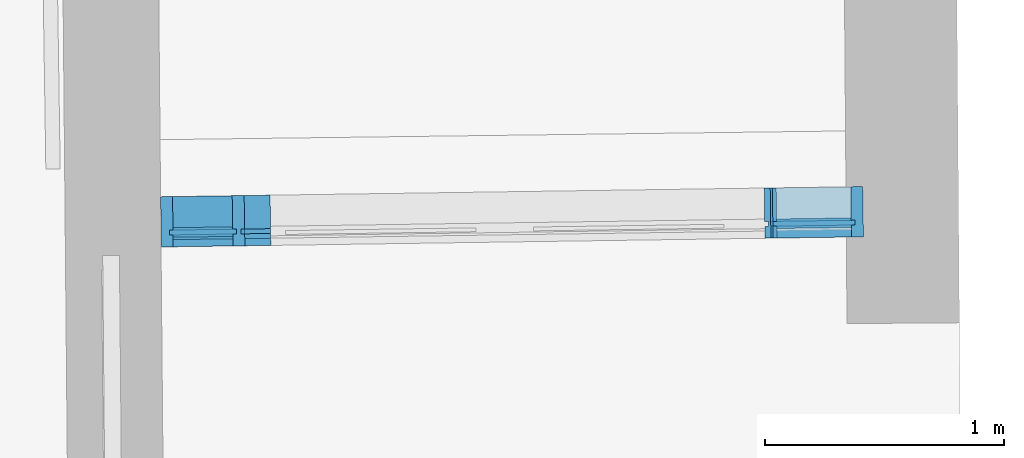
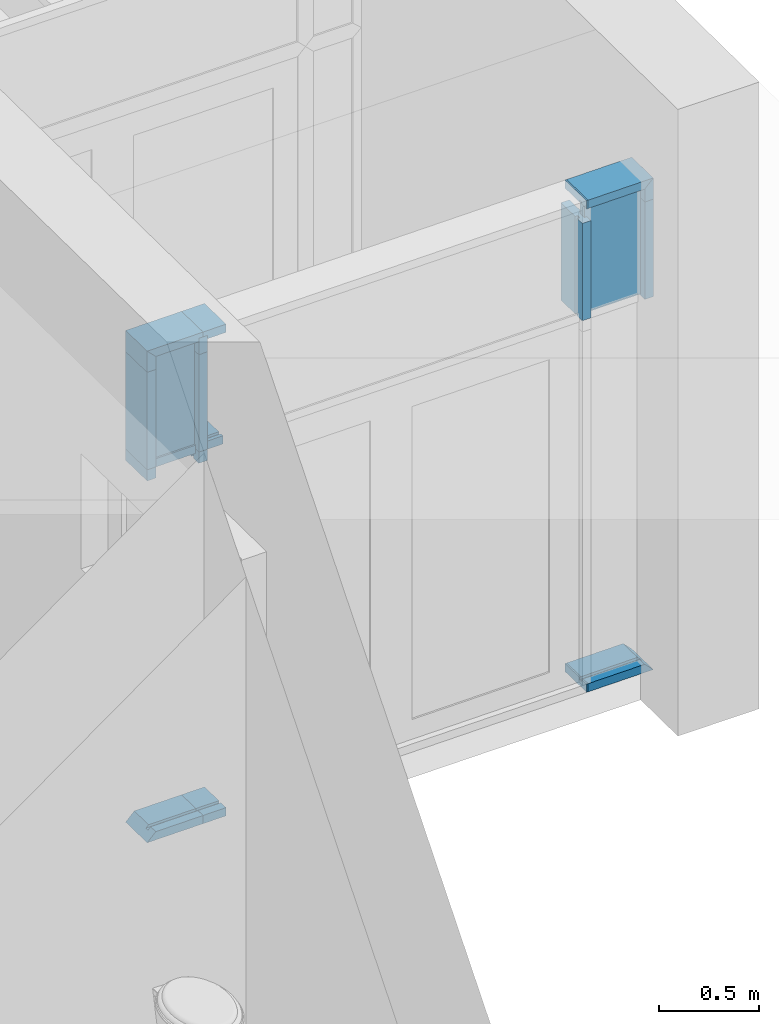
# One storey, part 156 of 196: 21 building element parts, 1 element without a shape of its own.
"""IFC2X3 building model written with IfcOpenShell, lengths in metres."""

from ifc_helpers import new_model, entity, si_unit, converted_unit, derived_unit, money_unit, direction, frame, origin_with_axes, place, context, subcontext, project, spatial, faceted_brep, material, type_object, element, aggregate, save


model = new_model("IFC2X3")

# Units and contexts
model_context = context("Model", 3, precision=1e-05, world=origin_with_axes(), true_north=direction((0.0, 1.0)))
body_context = subcontext(model_context, "Body", "Model", "MODEL_VIEW")
ifc_project = project(units=[si_unit("LENGTHUNIT", "METRE"), si_unit("AREAUNIT", "SQUARE_METRE"), si_unit("VOLUMEUNIT", "CUBIC_METRE"), converted_unit("PLANEANGLEUNIT", "DEGREE", entity("IfcPlaneAngleMeasure", 0.0174532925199), si_unit("PLANEANGLEUNIT", "RADIAN"), dimensions=[0, 0, 0, 0, 0, 0, 0]), money_unit("EUR"), converted_unit("TIMEUNIT", "Year", entity("IfcTimeMeasure", 31556926.0), si_unit("TIMEUNIT", "SECOND"), dimensions=[0, 0, 1, 0, 0, 0, 0]), si_unit("MASSUNIT", "GRAM", prefix="KILO"), si_unit("THERMODYNAMICTEMPERATUREUNIT", "DEGREE_CELSIUS"), si_unit("LUMINOUSINTENSITYUNIT", "LUMEN"), si_unit("ENERGYUNIT", "JOULE", prefix="MEGA"), derived_unit("THERMALCONDUCTANCEUNIT", [(si_unit("POWERUNIT", "WATT"), 1), (si_unit("LENGTHUNIT", "METRE"), -1), (si_unit("THERMODYNAMICTEMPERATUREUNIT", "KELVIN"), -1)]), derived_unit("SPECIFICHEATCAPACITYUNIT", [(si_unit("ENERGYUNIT", "JOULE"), 1), (si_unit("MASSUNIT", "GRAM", prefix="KILO"), -1), (si_unit("THERMODYNAMICTEMPERATUREUNIT", "KELVIN"), -1)]), derived_unit("MASSDENSITYUNIT", [(si_unit("MASSUNIT", "GRAM", prefix="KILO"), 1), (si_unit("VOLUMEUNIT", "CUBIC_METRE"), -1)])], contexts=[model_context])

# Site, building, storey
site_placement = place(None, origin_with_axes())
site = spatial("IfcSite", under=ifc_project, at=site_placement, Name="Gelände", CompositionType="ELEMENT")
building_placement = place(site_placement, origin_with_axes())
building = spatial("IfcBuilding", under=site, at=building_placement, Name="Gebäude", CompositionType="ELEMENT")
storey_placement = place(building_placement, frame((0.0, 0.0, -3.0), z_axis=(0.0, 0.0, 1.0), x_axis=(1.0, 0.0, 0.0)))
storey = spatial("IfcBuildingStorey", under=building, at=storey_placement, Name="KELLERGESCHOSS", CompositionType="ELEMENT", Elevation=-3.0)

# Proxy, building element parts
building_element_proxy_type = type_object("IfcBuildingElementProxyType", Name="Fassadentyp", PredefinedType="NOTDEFINED")
proxy_placement = place(storey_placement, frame((-18.3953551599, 39.5909637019, 0.410855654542), z_axis=(0.0, 0.0, 1.0), x_axis=(1.0, 0.0, 0.0)))
proxy = element("IfcBuildingElementProxy", 1, at=proxy_placement, inside=storey, type_object=building_element_proxy_type, Name="Fassade-002")
ifc_material_1 = material(Name="45_Glas, Normalglas")
building_element_part_1_placement = place(proxy_placement, origin_with_axes())
building_element_part_1 = element("IfcBuildingElementPart", 2, at=building_element_part_1_placement, material=ifc_material_1, Name="45_Glas, Normalglas", context=body_context, shape_type="Brep", body=[
    faceted_brep([(2.73800675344, 0.0596437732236, 2.95414427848), (2.39630923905, 0.0546965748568, 2.95414427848), (2.39688831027, 0.0147007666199, 2.95414427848), (2.73858582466, 0.0196479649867, 2.95414427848), (2.73800677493, 0.0596437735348, 2.85999997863), (2.73800678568, 0.0596437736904, 2.2778057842), (2.39630926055, 0.054696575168, 2.2778057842), (2.39630923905, 0.0546965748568, 2.85999998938), (2.39688831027, 0.0147007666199, 2.85999998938), (2.39688833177, 0.0147007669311, 2.2778057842), (2.7385858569, 0.0196479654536, 2.2778057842), (2.73858584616, 0.0196479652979, 2.85999997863)], [[[0, 1, 2, 3]], [[0, 4, 5, 6, 7, 1]], [[1, 7, 8, 2]], [[3, 2, 8, 9, 10, 11]], [[4, 0, 3, 11]], [[5, 4, 11, 10]], [[6, 5, 10, 9]], [[7, 6, 9, 8]]]),
])
building_element_part_2_placement = place(proxy_placement, origin_with_axes())
building_element_part_2 = element("IfcBuildingElementPart", 3, at=building_element_part_2_placement, material=ifc_material_1, Name="45_Glas, Normalglas", context=body_context, shape_type="Brep", body=[
    faceted_brep([(0.15192964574, 0.0222017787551, 2.95414435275), (-0.127511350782, 0.0181559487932, 2.95414435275), (-0.126932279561, -0.0218398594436, 2.95414435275), (0.152508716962, -0.0177940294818, 2.95414435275), (0.15192964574, 0.0222017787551, 2.85999998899), (0.151929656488, 0.0222017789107, 2.27780578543), (-0.127511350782, 0.0181559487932, 2.27780578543), (-0.127511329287, 0.0181559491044, 2.85999998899), (-0.126932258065, -0.0218398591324, 2.85999998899), (-0.126932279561, -0.0218398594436, 2.27780578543), (0.152508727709, -0.0177940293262, 2.27780578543), (0.152508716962, -0.0177940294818, 2.85999998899)], [[[0, 1, 2, 3]], [[0, 4, 5, 6, 7, 1]], [[1, 7, 8, 2]], [[3, 2, 8, 9, 10, 11]], [[4, 0, 3, 11]], [[5, 4, 11, 10]], [[6, 5, 10, 9]], [[7, 6, 9, 8]]]),
])
ifc_material_2 = material(Name="53_Metall, Aluminium")
building_element_part_3_placement = place(proxy_placement, origin_with_axes())
building_element_part_3 = element("IfcBuildingElementPart", 4, at=building_element_part_3_placement, material=ifc_material_2, Name="53_Metall, Aluminium", context=body_context, shape_type="Brep", body=[
    faceted_brep([(-0.127366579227, 0.0081569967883, 2.19999998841), (-0.127077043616, -0.0118409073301, 2.19999998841), (-0.112078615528, -0.0116237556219, 2.19999998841), (-0.1113547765, -0.061618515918, 2.19999998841), (-0.161349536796, -0.0623423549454, 2.19999998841), (-0.164389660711, 0.147635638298, 2.19999998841), (-0.114394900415, 0.148359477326, 2.19999998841), (-0.112368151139, 0.00837414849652, 2.19999998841), (-0.127366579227, 0.0081569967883, 2.26780578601), (-0.127077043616, -0.0118409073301, 2.26780578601), (-0.112078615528, -0.0116237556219, 2.26780578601), (-0.1113547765, -0.061618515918, 2.26780578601), (-0.161349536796, -0.0623423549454, 2.26780578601), (-0.164389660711, 0.147635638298, 2.26780578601), (-0.114394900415, 0.148359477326, 2.26780578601), (-0.112368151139, 0.00837414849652, 2.26780578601)], [[[0, 1, 2, 3, 4, 5, 6, 7]], [[1, 0, 8, 9]], [[10, 2, 1, 9]], [[2, 10, 11, 3]], [[12, 4, 3, 11]], [[13, 5, 4, 12]], [[14, 6, 5, 13]], [[15, 7, 6, 14]], [[0, 7, 15, 8]], [[8, 15, 14, 13, 12, 11, 10, 9]]]),
])
building_element_part_4_placement = place(proxy_placement, origin_with_axes())
building_element_part_4 = element("IfcBuildingElementPart", 5, at=building_element_part_4_placement, material=ifc_material_2, Name="53_Metall, Aluminium", context=body_context, shape_type="Brep", body=[
    faceted_brep([(-0.127366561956, 0.00815699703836, 2.26780578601), (-0.127077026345, -0.0118409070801, 2.26780578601), (-0.112078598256, -0.0116237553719, 2.26780578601), (-0.111354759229, -0.0616185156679, 2.26780578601), (-0.161349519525, -0.0623423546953, 2.26780578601), (-0.16438964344, 0.147635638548, 2.26780578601), (-0.114394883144, 0.148359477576, 2.26780578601), (-0.112368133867, 0.00837414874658, 2.26780578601), (-0.127366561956, 0.00815699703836, 2.85999999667), (-0.127077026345, -0.0118409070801, 2.85999999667), (-0.112078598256, -0.0116237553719, 2.85999999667), (-0.111354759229, -0.0616185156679, 2.85999999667), (-0.161349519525, -0.0623423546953, 2.85999999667), (-0.16438964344, 0.147635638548, 2.85999999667), (-0.114394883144, 0.148359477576, 2.85999999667), (-0.112368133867, 0.00837414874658, 2.85999999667)], [[[0, 1, 2, 3, 4, 5, 6, 7]], [[1, 0, 8, 9]], [[10, 2, 1, 9]], [[2, 10, 11, 3]], [[12, 4, 3, 11]], [[13, 5, 4, 12]], [[14, 6, 5, 13]], [[15, 7, 6, 14]], [[0, 7, 15, 8]], [[8, 15, 14, 13, 12, 11, 10, 9]]]),
])
building_element_part_5_placement = place(proxy_placement, origin_with_axes())
building_element_part_5 = element("IfcBuildingElementPart", 6, at=building_element_part_5_placement, material=ifc_material_2, Name="53_Metall, Aluminium", context=body_context, shape_type="Brep", body=[
    faceted_brep([(2.3964540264, 0.0446976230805, 2.85999998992), (2.41145245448, 0.0449147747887, 2.85999998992), (2.40942570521, 0.184900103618, 2.85999998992), (2.35943094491, 0.18417626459, 2.85999998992), (2.36145769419, 0.0441909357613, 2.85999998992), (2.37645612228, 0.0444080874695, 2.85999998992), (2.37674565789, 0.0244101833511, 2.85999998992), (2.3617472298, 0.0241930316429, 2.85999998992), (2.36247106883, -0.0258017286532, 2.85999998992), (2.41246582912, -0.0250778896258, 2.85999998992), (2.4117419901, 0.0249168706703, 2.85999998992), (2.39674356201, 0.0246997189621, 2.85999998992), (2.3964540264, 0.0446976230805, 2.26780578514), (2.41145245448, 0.0449147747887, 2.26780578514), (2.40942570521, 0.184900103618, 2.26780578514), (2.35943094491, 0.18417626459, 2.26780578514), (2.36145769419, 0.0441909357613, 2.26780578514), (2.37645612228, 0.0444080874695, 2.26780578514), (2.37674565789, 0.0244101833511, 2.26780578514), (2.3617472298, 0.0241930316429, 2.26780578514), (2.36247106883, -0.0258017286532, 2.26780578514), (2.41246582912, -0.0250778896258, 2.26780578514), (2.4117419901, 0.0249168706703, 2.26780578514), (2.39674356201, 0.0246997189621, 2.26780578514)], [[[0, 1, 2, 3, 4, 5, 6, 7, 8, 9, 10, 11]], [[1, 0, 12, 13]], [[1, 13, 14, 2]], [[3, 2, 14, 15]], [[4, 3, 15, 16]], [[4, 16, 17, 5]], [[5, 17, 18, 6]], [[7, 6, 18, 19]], [[19, 20, 8, 7]], [[9, 8, 20, 21]], [[22, 10, 9, 21]], [[11, 10, 22, 23]], [[0, 11, 23, 12]], [[23, 22, 21, 20, 19, 18, 17, 16, 15, 14, 13, 12]]]),
])
building_element_part_6_placement = place(proxy_placement, origin_with_axes())
building_element_part_6 = element("IfcBuildingElementPart", 7, at=building_element_part_6_placement, material=ifc_material_2, Name="53_Metall, Aluminium", context=body_context, shape_type="Brep", body=[
    faceted_brep([(2.73815154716, 0.0496448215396, 0.0349999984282), (2.73844108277, 0.0296469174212, 0.0349999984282), (2.72344265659, 0.0294297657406, 0.0499999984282), (2.72416649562, -0.0205649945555, 0.0499999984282), (2.77416124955, -0.0198411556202, -1.57177737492e-09), (2.77112112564, 0.190136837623, -1.57177737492e-09), (2.72112637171, 0.189412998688, 0.0499999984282), (2.72315312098, 0.049427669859, 0.0499999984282), (2.3953126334, 0.0446810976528, 0.0349999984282), (2.39560216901, 0.0246831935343, 0.0349999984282), (2.39560216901, 0.0246831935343, 0.0499999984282), (2.39632600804, -0.0253115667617, 0.0499999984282), (2.39632600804, -0.0253115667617, -1.57177737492e-09), (2.39328588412, 0.184666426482, -1.57177737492e-09), (2.39328588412, 0.184666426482, 0.0499999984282), (2.3953126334, 0.0446810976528, 0.0499999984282)], [[[0, 1, 2, 3, 4, 5, 6, 7]], [[1, 0, 8, 9]], [[10, 2, 1, 9]], [[2, 10, 11, 3]], [[12, 4, 3, 11]], [[13, 5, 4, 12]], [[14, 6, 5, 13]], [[15, 7, 6, 14]], [[0, 7, 15, 8]], [[8, 15, 14, 13, 12, 11, 10, 9]]]),
])
building_element_part_7_placement = place(proxy_placement, origin_with_axes())
building_element_part_7 = element("IfcBuildingElementPart", 8, at=building_element_part_7_placement, material=ifc_material_2, Name="53_Metall, Aluminium", context=body_context, shape_type="Brep", body=[
    faceted_brep([(2.39531264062, 0.0446810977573, 0.0349999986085), (2.39560217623, 0.0246831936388, 0.0349999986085), (2.39560217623, 0.0246831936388, 0.0499999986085), (2.39632601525, -0.0253115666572, 0.0499999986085), (2.39632601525, -0.0253115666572, -1.39153666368e-09), (2.39328589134, 0.184666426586, -1.39153666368e-09), (2.39328589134, 0.184666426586, 0.0499999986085), (2.39531264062, 0.0446810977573, 0.0499999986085), (2.38645507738, 0.0445528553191, 0.0349999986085), (2.38674461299, 0.0245549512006, 0.0349999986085), (2.38674461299, 0.0245549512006, 0.0499999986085), (2.38746845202, -0.0254398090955, 0.0499999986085), (2.38746845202, -0.0254398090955, -1.39153666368e-09), (2.3844283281, 0.184538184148, -1.39153666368e-09), (2.3844283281, 0.184538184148, 0.0499999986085), (2.38645507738, 0.0445528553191, 0.0499999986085)], [[[0, 1, 2, 3, 4, 5, 6, 7]], [[1, 0, 8, 9]], [[10, 2, 1, 9]], [[2, 10, 11, 3]], [[12, 4, 3, 11]], [[13, 5, 4, 12]], [[14, 6, 5, 13]], [[15, 7, 6, 14]], [[0, 7, 15, 8]], [[8, 15, 14, 13, 12, 11, 10, 9]]]),
])
building_element_part_8_placement = place(proxy_placement, origin_with_axes())
building_element_part_8 = element("IfcBuildingElementPart", 9, at=building_element_part_8_placement, material=ifc_material_2, Name="53_Metall, Aluminium", context=body_context, shape_type="Brep", body=[
    faceted_brep([(0.295532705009, 0.0142798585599, 2.25780579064), (0.295532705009, 0.0142798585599, 2.24280579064), (0.293505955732, 0.154265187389, 2.24280579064), (0.293505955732, 0.154265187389, 2.29280579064), (0.295532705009, 0.0142798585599, 2.29280579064), (0.295532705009, 0.0142798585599, 2.27780579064), (0.29582224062, -0.00571804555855, 2.27780579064), (0.29582224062, -0.00571804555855, 2.29280579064), (0.296111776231, -0.025715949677, 2.29280579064), (0.296111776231, -0.025715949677, 2.24280579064), (0.29582224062, -0.00571804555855, 2.24280579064), (0.29582224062, -0.00571804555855, 2.25780579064), (0.187070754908, 0.0127095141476, 2.25780579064), (0.187070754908, 0.0127095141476, 2.24280579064), (0.185044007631, 0.152694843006, 2.24280579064), (0.185044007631, 0.152694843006, 2.29280579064), (0.187070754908, 0.0127095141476, 2.29280579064), (0.187070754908, 0.0127095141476, 2.27780579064), (0.187360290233, -0.00728838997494, 2.27780579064), (0.187360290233, -0.00728838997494, 2.29280579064), (0.187649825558, -0.0272862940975, 2.29280579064), (0.187649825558, -0.0272862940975, 2.24280579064), (0.187360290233, -0.00728838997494, 2.24280579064), (0.187360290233, -0.00728838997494, 2.25780579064)], [[[0, 1, 2, 3, 4, 5, 6, 7, 8, 9, 10, 11]], [[1, 0, 12, 13]], [[1, 13, 14, 2]], [[2, 14, 15, 3]], [[4, 3, 15, 16]], [[4, 16, 17, 5]], [[5, 17, 18, 6]], [[7, 6, 18, 19]], [[19, 20, 8, 7]], [[8, 20, 21, 9]], [[22, 10, 9, 21]], [[11, 10, 22, 23]], [[0, 11, 23, 12]], [[23, 22, 21, 20, 19, 18, 17, 16, 15, 14, 13, 12]]]),
])
building_element_part_9_placement = place(proxy_placement, origin_with_axes())
building_element_part_9 = element("IfcBuildingElementPart", 10, at=building_element_part_9_placement, material=ifc_material_2, Name="53_Metall, Aluminium", context=body_context, shape_type="Brep", body=[
    faceted_brep([(-0.127366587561, 0.00815699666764, 2.95414435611), (-0.12707705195, -0.0118409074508, 2.95414435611), (-0.112078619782, -0.0116237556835, 2.93914435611), (-0.111354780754, -0.0616185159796, 2.93914435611), (-0.161349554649, -0.0623423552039, 2.98914435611), (-0.164389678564, 0.14763563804, 2.98914435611), (-0.114394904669, 0.148359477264, 2.93914435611), (-0.112368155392, 0.00837414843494, 2.93914435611), (0.162073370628, 0.0123475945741, 2.95414435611), (0.162362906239, -0.00765030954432, 2.95414435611), (0.162362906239, -0.00765030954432, 2.93914435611), (0.163086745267, -0.0576450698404, 2.93914435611), (0.163086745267, -0.0576450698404, 2.98914435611), (0.160046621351, 0.152332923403, 2.98914435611), (0.160046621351, 0.152332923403, 2.93914435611), (0.162073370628, 0.0123475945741, 2.93914435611)], [[[0, 1, 2, 3, 4, 5, 6, 7]], [[1, 0, 8, 9]], [[10, 2, 1, 9]], [[2, 10, 11, 3]], [[12, 4, 3, 11]], [[13, 5, 4, 12]], [[14, 6, 5, 13]], [[15, 7, 6, 14]], [[0, 7, 15, 8]], [[8, 15, 14, 13, 12, 11, 10, 9]]]),
])
building_element_part_10_placement = place(proxy_placement, origin_with_axes())
building_element_part_10 = element("IfcBuildingElementPart", 11, at=building_element_part_10_placement, material=ifc_material_2, Name="53_Metall, Aluminium", context=body_context, shape_type="Brep", body=[
    faceted_brep([(-0.12736659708, 0.00815699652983, 2.85999998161), (-0.127077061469, -0.0118409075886, 2.85999998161), (-0.11207863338, -0.0116237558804, 2.85999998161), (-0.111354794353, -0.0616185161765, 2.85999998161), (-0.161349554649, -0.0623423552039, 2.85999998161), (-0.164389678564, 0.14763563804, 2.85999998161), (-0.114394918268, 0.148359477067, 2.85999998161), (-0.112368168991, 0.00837414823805, 2.85999998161), (-0.12736659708, 0.00815699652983, 2.95414434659), (-0.127077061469, -0.0118409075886, 2.95414434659), (-0.11207863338, -0.0116237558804, 2.93914434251), (-0.111354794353, -0.0616185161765, 2.93914434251), (-0.161349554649, -0.0623423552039, 2.98914435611), (-0.164389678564, 0.14763563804, 2.98914435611), (-0.114394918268, 0.148359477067, 2.93914434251), (-0.112368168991, 0.00837414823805, 2.93914434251)], [[[0, 1, 2, 3, 4, 5, 6, 7]], [[1, 0, 8, 9]], [[10, 2, 1, 9]], [[2, 10, 11, 3]], [[4, 3, 11, 12]], [[5, 4, 12, 13]], [[6, 5, 13, 14]], [[15, 7, 6, 14]], [[0, 7, 15, 8]], [[8, 15, 14, 13, 12, 11, 10, 9]]]),
])
building_element_part_11_placement = place(proxy_placement, origin_with_axes())
building_element_part_11 = element("IfcBuildingElementPart", 12, at=building_element_part_11_placement, material=ifc_material_2, Name="53_Metall, Aluminium", context=body_context, shape_type="Brep", body=[
    faceted_brep([(0.172072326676, 0.0124923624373, 2.85999999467), (0.187070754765, 0.0127095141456, 2.85999999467), (0.185044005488, 0.152694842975, 2.85999999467), (0.135049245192, 0.151971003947, 2.85999999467), (0.137075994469, 0.0119856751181, 2.85999999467), (0.152074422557, 0.0122028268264, 2.85999999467), (0.152363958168, -0.00779507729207, 2.85999999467), (0.13736553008, -0.00801222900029, 2.85999999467), (0.138089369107, -0.0580069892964, 2.85999999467), (0.188084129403, -0.057283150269, 2.85999999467), (0.187360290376, -0.00728838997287, 2.85999999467), (0.172361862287, -0.0075055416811, 2.85999999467), (0.172072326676, 0.0124923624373, 2.26780578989), (0.187070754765, 0.0127095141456, 2.26780578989), (0.185044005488, 0.152694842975, 2.26780578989), (0.135049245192, 0.151971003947, 2.26780578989), (0.137075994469, 0.0119856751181, 2.26780578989), (0.152074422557, 0.0122028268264, 2.26780578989), (0.152363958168, -0.00779507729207, 2.26780578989), (0.13736553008, -0.00801222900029, 2.26780578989), (0.138089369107, -0.0580069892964, 2.26780578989), (0.188084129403, -0.057283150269, 2.26780578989), (0.187360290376, -0.00728838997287, 2.26780578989), (0.172361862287, -0.0075055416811, 2.26780578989)], [[[0, 1, 2, 3, 4, 5, 6, 7, 8, 9, 10, 11]], [[1, 0, 12, 13]], [[1, 13, 14, 2]], [[3, 2, 14, 15]], [[4, 3, 15, 16]], [[4, 16, 17, 5]], [[5, 17, 18, 6]], [[7, 6, 18, 19]], [[19, 20, 8, 7]], [[9, 8, 20, 21]], [[22, 10, 9, 21]], [[11, 10, 22, 23]], [[0, 11, 23, 12]], [[23, 22, 21, 20, 19, 18, 17, 16, 15, 14, 13, 12]]]),
])
building_element_part_12_placement = place(proxy_placement, origin_with_axes())
building_element_part_12 = element("IfcBuildingElementPart", 13, at=building_element_part_12_placement, material=ifc_material_2, Name="53_Metall, Aluminium", context=body_context, shape_type="Brep", body=[
    faceted_brep([(0.162073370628, 0.0123475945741, 2.95414435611), (0.162362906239, -0.00765030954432, 2.95414435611), (0.162362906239, -0.00765030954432, 2.93914435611), (0.163086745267, -0.0576450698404, 2.93914435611), (0.163086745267, -0.0576450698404, 2.98914435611), (0.160046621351, 0.152332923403, 2.98914435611), (0.160046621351, 0.152332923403, 2.93914435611), (0.162073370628, 0.0123475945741, 2.93914435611), (0.295532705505, 0.0142798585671, 2.95414435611), (0.295822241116, -0.00571804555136, 2.95414435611), (0.295822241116, -0.00571804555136, 2.93914435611), (0.296546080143, -0.0557128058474, 2.93914435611), (0.296546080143, -0.0557128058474, 2.98914435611), (0.293505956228, 0.154265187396, 2.98914435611), (0.293505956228, 0.154265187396, 2.93914435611), (0.295532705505, 0.0142798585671, 2.93914435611)], [[[0, 1, 2, 3, 4, 5, 6, 7]], [[1, 0, 8, 9]], [[10, 2, 1, 9]], [[2, 10, 11, 3]], [[12, 4, 3, 11]], [[13, 5, 4, 12]], [[14, 6, 5, 13]], [[15, 7, 6, 14]], [[0, 7, 15, 8]], [[8, 15, 14, 13, 12, 11, 10, 9]]]),
])
building_element_part_13_placement = place(proxy_placement, origin_with_axes())
building_element_part_13 = element("IfcBuildingElementPart", 14, at=building_element_part_13_placement, material=ifc_material_2, Name="53_Metall, Aluminium", context=body_context, shape_type="Brep", body=[
    faceted_brep([(0.162073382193, 0.0123475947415, 0.0350000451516), (0.162362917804, -0.00765030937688, 0.0350000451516), (0.162362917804, -0.00765030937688, 0.0500000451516), (0.163086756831, -0.057645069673, 0.0500000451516), (0.163086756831, -0.057645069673, 4.51515971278e-08), (0.160046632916, 0.152332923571, 4.51515971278e-08), (0.160046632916, 0.152332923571, 0.0500000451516), (0.162073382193, 0.0123475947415, 0.0500000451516), (-0.12736658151, 0.00815699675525, 0.0350000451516), (-0.127077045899, -0.0118409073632, 0.0350000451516), (-0.112078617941, -0.0116237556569, 0.0500000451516), (-0.111354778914, -0.0616185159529, 0.0500000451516), (-0.161349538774, -0.062342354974, 4.51515971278e-08), (-0.164389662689, 0.147635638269, 4.51515971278e-08), (-0.114394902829, 0.148359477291, 0.0500000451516), (-0.112368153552, 0.00837414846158, 0.0500000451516)], [[[0, 1, 2, 3, 4, 5, 6, 7]], [[1, 0, 8, 9]], [[10, 2, 1, 9]], [[2, 10, 11, 3]], [[4, 3, 11, 12]], [[5, 4, 12, 13]], [[6, 5, 13, 14]], [[15, 7, 6, 14]], [[0, 7, 15, 8]], [[8, 15, 14, 13, 12, 11, 10, 9]]]),
])
building_element_part_14_placement = place(proxy_placement, origin_with_axes())
building_element_part_14 = element("IfcBuildingElementPart", 15, at=building_element_part_14_placement, material=ifc_material_2, Name="53_Metall, Aluminium", context=body_context, shape_type="Brep", body=[
    faceted_brep([(2.39531263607, 0.0446810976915, 2.95414427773), (2.39560217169, 0.0246831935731, 2.95414427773), (2.39560217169, 0.0246831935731, 2.93914427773), (2.39632601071, -0.025311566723, 2.93914427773), (2.39632601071, -0.025311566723, 2.98914427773), (2.3932858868, 0.184666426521, 2.98914427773), (2.3932858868, 0.184666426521, 2.93914427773), (2.39531263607, 0.0446810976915, 2.93914427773), (2.73815152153, 0.0496448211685, 2.95414427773), (2.73844105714, 0.0296469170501, 2.95414427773), (2.72344263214, 0.0294297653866, 2.93914427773), (2.72416647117, -0.0205649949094, 2.93914427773), (2.77416122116, -0.0198411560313, 2.98914427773), (2.77112109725, 0.190136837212, 2.98914427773), (2.72112634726, 0.189412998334, 2.93914427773), (2.72315309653, 0.0494276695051, 2.93914427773)], [[[0, 1, 2, 3, 4, 5, 6, 7]], [[1, 0, 8, 9]], [[10, 2, 1, 9]], [[2, 10, 11, 3]], [[4, 3, 11, 12]], [[5, 4, 12, 13]], [[6, 5, 13, 14]], [[15, 7, 6, 14]], [[0, 7, 15, 8]], [[8, 15, 14, 13, 12, 11, 10, 9]]]),
])
building_element_part_15_placement = place(proxy_placement, origin_with_axes())
building_element_part_15 = element("IfcBuildingElementPart", 16, at=building_element_part_15_placement, material=ifc_material_2, Name="53_Metall, Aluminium", context=body_context, shape_type="Brep", body=[
    faceted_brep([(2.38645505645, 0.0445528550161, 2.95414427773), (2.38674459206, 0.0245549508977, 2.95414427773), (2.38674459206, 0.0245549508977, 2.93914427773), (2.38746843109, -0.0254398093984, 2.93914427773), (2.38746843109, -0.0254398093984, 2.98914427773), (2.38442830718, 0.184538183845, 2.98914427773), (2.38442830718, 0.184538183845, 2.93914427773), (2.38645505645, 0.0445528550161, 2.93914427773), (2.39531263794, 0.0446810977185, 2.95414427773), (2.39560217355, 0.0246831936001, 2.95414427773), (2.39560217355, 0.0246831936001, 2.93914427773), (2.39632601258, -0.025311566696, 2.93914427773), (2.39632601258, -0.025311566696, 2.98914427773), (2.39328588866, 0.184666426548, 2.98914427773), (2.39328588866, 0.184666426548, 2.93914427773), (2.39531263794, 0.0446810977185, 2.93914427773)], [[[0, 1, 2, 3, 4, 5, 6, 7]], [[1, 0, 8, 9]], [[10, 2, 1, 9]], [[2, 10, 11, 3]], [[12, 4, 3, 11]], [[13, 5, 4, 12]], [[14, 6, 5, 13]], [[15, 7, 6, 14]], [[0, 7, 15, 8]], [[8, 15, 14, 13, 12, 11, 10, 9]]]),
])
building_element_part_16_placement = place(proxy_placement, origin_with_axes())
building_element_part_16 = element("IfcBuildingElementPart", 17, at=building_element_part_16_placement, material=ifc_material_2, Name="53_Metall, Aluminium", context=body_context, shape_type="Brep", body=[
    faceted_brep([(0.295532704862, 0.0142798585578, 0.0350000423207), (0.295822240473, -0.00571804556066, 0.0350000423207), (0.295822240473, -0.00571804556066, 0.0500000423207), (0.296546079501, -0.0557128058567, 0.0500000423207), (0.296546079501, -0.0557128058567, 4.23206971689e-08), (0.293505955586, 0.154265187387, 4.23206971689e-08), (0.293505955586, 0.154265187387, 0.0500000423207), (0.295532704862, 0.0142798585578, 0.0500000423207), (0.162073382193, 0.0123475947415, 0.0350000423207), (0.162362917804, -0.00765030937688, 0.0350000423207), (0.162362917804, -0.00765030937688, 0.0500000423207), (0.163086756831, -0.057645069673, 0.0500000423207), (0.163086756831, -0.057645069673, 4.23206971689e-08), (0.160046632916, 0.152332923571, 4.23206971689e-08), (0.160046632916, 0.152332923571, 0.0500000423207), (0.162073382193, 0.0123475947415, 0.0500000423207)], [[[0, 1, 2, 3, 4, 5, 6, 7]], [[1, 0, 8, 9]], [[10, 2, 1, 9]], [[2, 10, 11, 3]], [[12, 4, 3, 11]], [[13, 5, 4, 12]], [[14, 6, 5, 13]], [[15, 7, 6, 14]], [[0, 7, 15, 8]], [[8, 15, 14, 13, 12, 11, 10, 9]]]),
])
building_element_part_17_placement = place(proxy_placement, origin_with_axes())
building_element_part_17 = element("IfcBuildingElementPart", 18, at=building_element_part_17_placement, material=ifc_material_2, Name="53_Metall, Aluminium", context=body_context, shape_type="Brep", body=[
    faceted_brep([(2.73815154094, 0.0496448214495, 2.95414428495), (2.73844107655, 0.0296469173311, 2.95414428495), (2.72344264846, 0.0294297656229, 2.93914428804), (2.72416648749, -0.0205649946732, 2.93914428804), (2.77416124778, -0.0198411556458, 2.98914427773), (2.77112112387, 0.190136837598, 2.98914427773), (2.72112636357, 0.18941299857, 2.93914428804), (2.72315311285, 0.0494276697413, 2.93914428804), (2.73815154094, 0.0496448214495, 2.85999998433), (2.73844107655, 0.0296469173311, 2.85999998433), (2.72344264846, 0.0294297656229, 2.85999998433), (2.72416648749, -0.0205649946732, 2.85999998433), (2.77416124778, -0.0198411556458, 2.85999998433), (2.77112112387, 0.190136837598, 2.85999998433), (2.72112636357, 0.18941299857, 2.85999998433), (2.72315311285, 0.0494276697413, 2.85999998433)], [[[0, 1, 2, 3, 4, 5, 6, 7]], [[1, 0, 8, 9]], [[10, 2, 1, 9]], [[2, 10, 11, 3]], [[12, 4, 3, 11]], [[13, 5, 4, 12]], [[14, 6, 5, 13]], [[15, 7, 6, 14]], [[0, 7, 15, 8]], [[8, 15, 14, 13, 12, 11, 10, 9]]]),
])
building_element_part_18_placement = place(proxy_placement, origin_with_axes())
building_element_part_18 = element("IfcBuildingElementPart", 19, at=building_element_part_18_placement, material=ifc_material_2, Name="53_Metall, Aluminium", context=body_context, shape_type="Brep", body=[
    faceted_brep([(2.73815154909, 0.0496448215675, 2.859999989), (2.7384410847, 0.029646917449, 2.859999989), (2.72344265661, 0.0294297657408, 2.859999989), (2.72416649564, -0.0205649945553, 2.859999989), (2.77416125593, -0.0198411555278, 2.859999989), (2.77112113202, 0.190136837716, 2.859999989), (2.72112637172, 0.189412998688, 2.859999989), (2.723153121, 0.0494276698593, 2.859999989), (2.73815154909, 0.0496448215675, 2.26780577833), (2.7384410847, 0.029646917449, 2.26780577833), (2.72344265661, 0.0294297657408, 2.26780577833), (2.72416649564, -0.0205649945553, 2.26780577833), (2.77416125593, -0.0198411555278, 2.26780577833), (2.77112113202, 0.190136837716, 2.26780577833), (2.72112637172, 0.189412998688, 2.26780577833), (2.723153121, 0.0494276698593, 2.26780577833)], [[[0, 1, 2, 3, 4, 5, 6, 7]], [[1, 0, 8, 9]], [[10, 2, 1, 9]], [[2, 10, 11, 3]], [[12, 4, 3, 11]], [[13, 5, 4, 12]], [[14, 6, 5, 13]], [[15, 7, 6, 14]], [[0, 7, 15, 8]], [[8, 15, 14, 13, 12, 11, 10, 9]]]),
])
building_element_part_19_placement = place(proxy_placement, origin_with_axes())
building_element_part_19 = element("IfcBuildingElementPart", 20, at=building_element_part_19_placement, material=ifc_material_2, Name="53_Metall, Aluminium", context=body_context, shape_type="Brep", body=[
    faceted_brep([(0.172072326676, 0.0124923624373, 2.26780579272), (0.187070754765, 0.0127095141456, 2.26780579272), (0.185044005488, 0.152694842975, 2.26780579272), (0.135049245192, 0.151971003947, 2.26780579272), (0.137075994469, 0.0119856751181, 2.26780579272), (0.152074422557, 0.0122028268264, 2.26780579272), (0.152363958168, -0.00779507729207, 2.26780579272), (0.13736553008, -0.00801222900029, 2.26780579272), (0.138089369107, -0.0580069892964, 2.26780579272), (0.188084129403, -0.057283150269, 2.26780579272), (0.187360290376, -0.00728838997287, 2.26780579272), (0.172361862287, -0.0075055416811, 2.26780579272), (0.172072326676, 0.0124923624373, 2.19999998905), (0.187070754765, 0.0127095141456, 2.19999998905), (0.185044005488, 0.152694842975, 2.19999998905), (0.135049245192, 0.151971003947, 2.19999998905), (0.137075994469, 0.0119856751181, 2.19999998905), (0.152074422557, 0.0122028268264, 2.19999998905), (0.152363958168, -0.00779507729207, 2.19999998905), (0.13736553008, -0.00801222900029, 2.19999998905), (0.138089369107, -0.0580069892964, 2.19999998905), (0.188084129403, -0.057283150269, 2.19999998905), (0.187360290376, -0.00728838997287, 2.19999998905), (0.172361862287, -0.0075055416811, 2.19999998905)], [[[0, 1, 2, 3, 4, 5, 6, 7, 8, 9, 10, 11]], [[1, 0, 12, 13]], [[1, 13, 14, 2]], [[3, 2, 14, 15]], [[4, 3, 15, 16]], [[4, 16, 17, 5]], [[5, 17, 18, 6]], [[7, 6, 18, 19]], [[19, 20, 8, 7]], [[9, 8, 20, 21]], [[22, 10, 9, 21]], [[11, 10, 22, 23]], [[0, 11, 23, 12]], [[23, 22, 21, 20, 19, 18, 17, 16, 15, 14, 13, 12]]]),
])
building_element_part_20_placement = place(proxy_placement, origin_with_axes())
building_element_part_20 = element("IfcBuildingElementPart", 21, at=building_element_part_20_placement, material=ifc_material_2, Name="53_Metall, Aluminium", context=body_context, shape_type="Brep", body=[
    faceted_brep([(0.137075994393, 0.011985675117, 2.25780578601), (0.137075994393, 0.011985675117, 2.24280578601), (0.135049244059, 0.151971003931, 2.24280578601), (0.135049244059, 0.151971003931, 2.29280578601), (0.137075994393, 0.011985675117, 2.29280578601), (0.137075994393, 0.011985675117, 2.27780578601), (0.137365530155, -0.00801222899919, 2.27780578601), (0.137365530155, -0.00801222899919, 2.29280578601), (0.137655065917, -0.0280101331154, 2.29280578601), (0.137655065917, -0.0280101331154, 2.24280578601), (0.137365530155, -0.00801222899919, 2.24280578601), (0.137365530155, -0.00801222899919, 2.25780578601), (-0.112368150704, 0.00837414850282, 2.25780578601), (-0.112368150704, 0.00837414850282, 2.24280578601), (-0.114394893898, 0.14835947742, 2.24280578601), (-0.114394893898, 0.14835947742, 2.29280578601), (-0.112368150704, 0.00837414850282, 2.29280578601), (-0.112368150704, 0.00837414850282, 2.27780578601), (-0.112078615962, -0.0116237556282, 2.27780578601), (-0.112078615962, -0.0116237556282, 2.29280578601), (-0.11178908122, -0.0316216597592, 2.29280578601), (-0.11178908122, -0.0316216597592, 2.24280578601), (-0.112078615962, -0.0116237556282, 2.24280578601), (-0.112078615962, -0.0116237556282, 2.25780578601)], [[[0, 1, 2, 3, 4, 5, 6, 7, 8, 9, 10, 11]], [[1, 0, 12, 13]], [[1, 13, 14, 2]], [[2, 14, 15, 3]], [[4, 3, 15, 16]], [[4, 16, 17, 5]], [[5, 17, 18, 6]], [[7, 6, 18, 19]], [[19, 20, 8, 7]], [[8, 20, 21, 9]], [[22, 10, 9, 21]], [[11, 10, 22, 23]], [[0, 11, 23, 12]], [[23, 22, 21, 20, 19, 18, 17, 16, 15, 14, 13, 12]]]),
])
building_element_part_21_placement = place(proxy_placement, origin_with_axes())
building_element_part_21 = element("IfcBuildingElementPart", 22, at=building_element_part_21_placement, material=ifc_material_2, Name="53_Metall, Aluminium", context=body_context, shape_type="Brep", body=[
    faceted_brep([(0.172072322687, 0.0124923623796, 2.95999992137), (0.187070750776, 0.0127095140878, 2.95999992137), (0.185044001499, 0.152694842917, 2.95999992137), (0.135049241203, 0.151971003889, 2.95999992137), (0.13707599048, 0.0119856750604, 2.95999992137), (0.152074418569, 0.0122028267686, 2.95999992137), (0.15236395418, -0.00779507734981, 2.95999992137), (0.137365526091, -0.00801222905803, 2.95999992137), (0.138089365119, -0.0580069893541, 2.95999992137), (0.188084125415, -0.0572831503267, 2.95999992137), (0.187360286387, -0.00728839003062, 2.95999992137), (0.172361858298, -0.00750554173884, 2.95999992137), (0.172072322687, 0.0124923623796, 2.85999998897), (0.187070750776, 0.0127095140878, 2.85999998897), (0.185044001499, 0.152694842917, 2.85999998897), (0.135049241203, 0.151971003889, 2.85999998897), (0.13707599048, 0.0119856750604, 2.85999998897), (0.152074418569, 0.0122028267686, 2.85999998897), (0.15236395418, -0.00779507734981, 2.85999998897), (0.137365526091, -0.00801222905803, 2.85999998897), (0.138089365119, -0.0580069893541, 2.85999998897), (0.188084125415, -0.0572831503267, 2.85999998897), (0.187360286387, -0.00728839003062, 2.85999998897), (0.172361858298, -0.00750554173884, 2.85999998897)], [[[0, 1, 2, 3, 4, 5, 6, 7, 8, 9, 10, 11]], [[1, 0, 12, 13]], [[1, 13, 14, 2]], [[3, 2, 14, 15]], [[4, 3, 15, 16]], [[4, 16, 17, 5]], [[5, 17, 18, 6]], [[7, 6, 18, 19]], [[19, 20, 8, 7]], [[9, 8, 20, 21]], [[22, 10, 9, 21]], [[11, 10, 22, 23]], [[0, 11, 23, 12]], [[23, 22, 21, 20, 19, 18, 17, 16, 15, 14, 13, 12]]]),
])
aggregate(proxy, [building_element_part_1, building_element_part_2, building_element_part_3, building_element_part_4, building_element_part_5, building_element_part_6, building_element_part_7, building_element_part_8, building_element_part_9, building_element_part_10, building_element_part_11, building_element_part_12, building_element_part_13, building_element_part_14, building_element_part_15, building_element_part_16, building_element_part_17, building_element_part_18, building_element_part_19, building_element_part_20, building_element_part_21])

save(model, "model.ifc")
